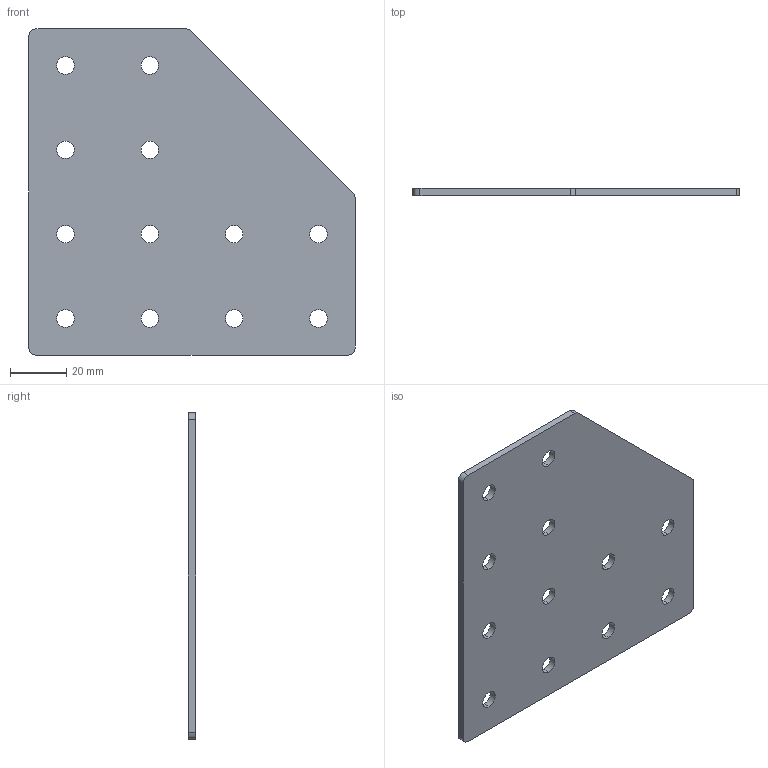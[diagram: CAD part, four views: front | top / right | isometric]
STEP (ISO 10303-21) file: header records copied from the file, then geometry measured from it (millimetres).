
FILE_DESCRIPTION (( 'STEP AP203' ), '1' );
FILE_NAME ('ã-12-ó-3.STEP', '2016-07-20T12:50:39', ( '' ), ( '' ), 'SwSTEP 2.0', 'SolidWorks 2014', '' );
FILE_SCHEMA (( 'CONFIG_CONTROL_DESIGN' ));
Length unit declared in the file: millimetre
Products named in the file (1): ã-12-ó-3
Bounding box: 116 x 2.5 x 116 mm (x, y, z)
Surface area: 24367.7 mm2 (no closed solid volume)
Topology: 0 solids, 1 shells, 36 faces, 102 edges, 68 vertices
Faces by surface type: cylinder 29, plane 7
Entity records: 1329 total; most frequent: DIRECTION 234, CARTESIAN_POINT 207, ORIENTED_EDGE 204, EDGE_CURVE 102, AXIS2_PLACEMENT_3D 95, VERTEX_POINT 68, EDGE_LOOP 60, CIRCLE 58
